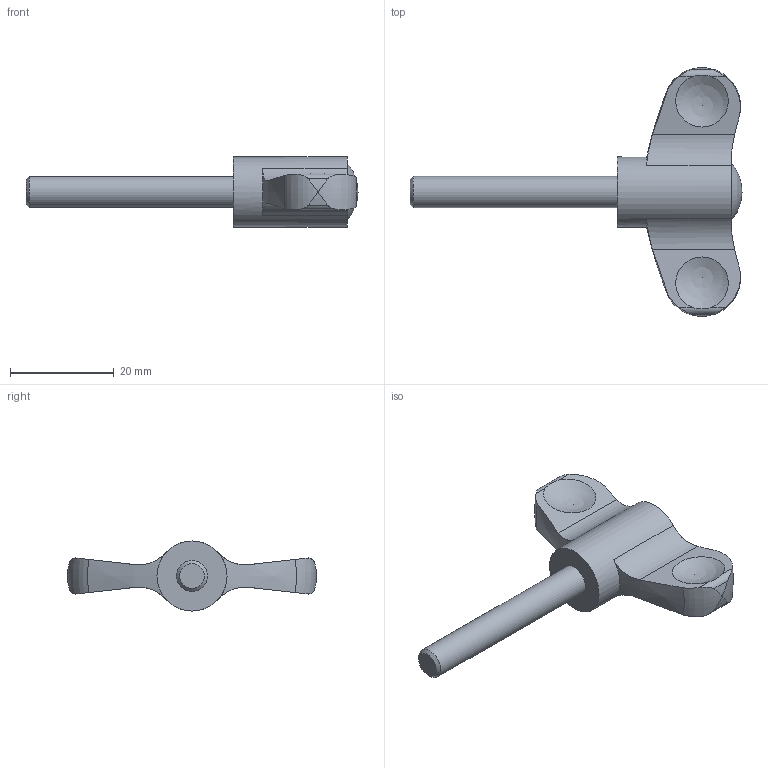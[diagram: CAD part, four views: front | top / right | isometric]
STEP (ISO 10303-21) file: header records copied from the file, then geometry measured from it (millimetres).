
FILE_DESCRIPTION( ( 'STEP AP203' ), '1' );
FILE_NAME( 'C:/Temp/Ganter_Step_05_03_2020/data/2_2/gn_633/Wing nut GN 633-48-M6-40-DBL.stp', '2020-03-05T12:20:41', ( 'License CC BY-ND 4.0' ), ( 'CADENAS' ), ' ', 'PARTsolutions', ' ' );
FILE_SCHEMA( ( 'CONFIG_CONTROL_DESIGN' ) );
Length unit declared in the file: millimetre
Products named in the file (1): _Wing nut GN 633-48-M6-40-DBL
Bounding box: 64 x 48 x 13.5 mm (x, y, z)
Volume: 6821.2 mm3; surface area: 3295.2 mm2
Topology: 1 solids, 1 shells, 33 faces, 102 edges, 68 vertices
Faces by surface type: cylinder 14, sphere 7, plane 7, bspline 2, torus 2, cone 1
Full cylindrical faces by diameter (mm): 6 x1, 13.5 x1
Entity records: 1450 total; most frequent: CARTESIAN_POINT 638, ORIENTED_EDGE 166, DIRECTION 138, EDGE_CURVE 83, VERTEX_POINT 63, AXIS2_PLACEMENT_3D 59, EDGE_LOOP 38, B_SPLINE_CURVE_WITH_KNOTS 36
